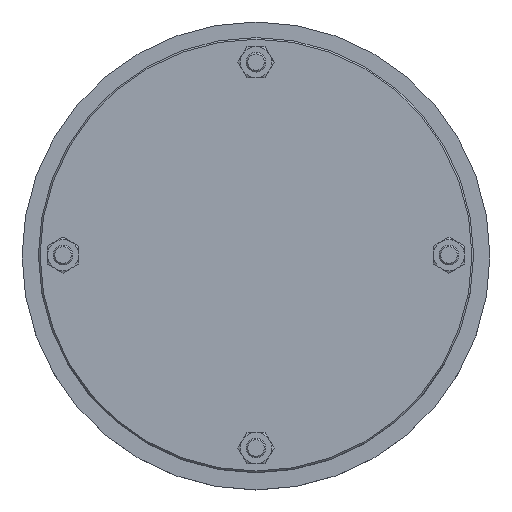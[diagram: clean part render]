
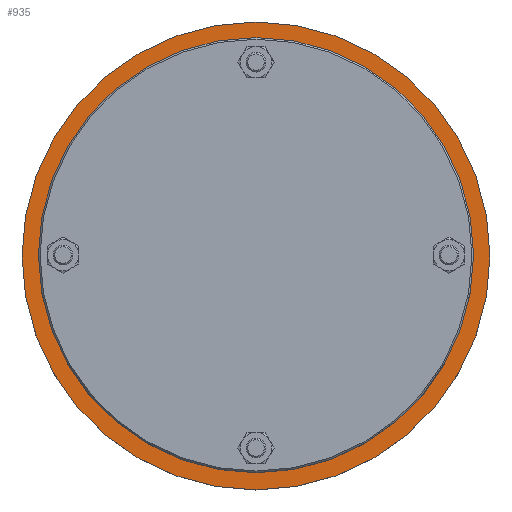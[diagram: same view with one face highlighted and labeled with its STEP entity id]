
A CAD part, top view. The second image highlights one B-rep face of the part: STEP entity #935.
In plain terms, the highlighted planar face has unit normal (0, 0, 1).
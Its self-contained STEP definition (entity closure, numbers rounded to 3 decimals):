
#935=ADVANCED_FACE('',(#3507,#3509,#3511,#3513,#3515,#3517,#3519,#3521,#3523,#3525),
#3527,.T.);
#3507=FACE_BOUND('',#3508,.T.);
#3508=EDGE_LOOP('',(#5523));
#3509=FACE_BOUND('',#3510,.T.);
#3510=EDGE_LOOP('',(#5524));
#3511=FACE_BOUND('',#3512,.T.);
#3512=EDGE_LOOP('',(#5525));
#3513=FACE_BOUND('',#3514,.T.);
#3514=EDGE_LOOP('',(#5526));
#3515=FACE_BOUND('',#3516,.T.);
#3516=EDGE_LOOP('',(#5527));
#3517=FACE_BOUND('',#3518,.T.);
#3518=EDGE_LOOP('',(#5528));
#3519=FACE_BOUND('',#3520,.T.);
#3520=EDGE_LOOP('',(#5529));
#3521=FACE_BOUND('',#3522,.T.);
#3522=EDGE_LOOP('',(#5530));
#3523=FACE_BOUND('',#3524,.T.);
#3524=EDGE_LOOP('',(#5531));
#3525=FACE_BOUND('',#3526,.T.);
#3526=EDGE_LOOP('',(#5532));
#3527=PLANE('',#3528);
#3528=AXIS2_PLACEMENT_3D('',#3529,#3530,#3531);
#3529=CARTESIAN_POINT('',(0.,0.,26.));
#3530=DIRECTION('',(0.,0.,1.));
#3531=DIRECTION('',(1.,0.,0.));
#5523=ORIENTED_EDGE('',*,*,#6561,.T.);
#5524=ORIENTED_EDGE('',*,*,#6535,.F.);
#5525=ORIENTED_EDGE('',*,*,#6562,.T.);
#5526=ORIENTED_EDGE('',*,*,#6563,.T.);
#5527=ORIENTED_EDGE('',*,*,#6564,.T.);
#5528=ORIENTED_EDGE('',*,*,#6565,.T.);
#5529=ORIENTED_EDGE('',*,*,#6566,.T.);
#5530=ORIENTED_EDGE('',*,*,#6567,.T.);
#5531=ORIENTED_EDGE('',*,*,#6568,.T.);
#5532=ORIENTED_EDGE('',*,*,#6569,.T.);
#6535=EDGE_CURVE('',#7283,#7283,#7284,.T.);
#6561=EDGE_CURVE('',#7311,#7311,#7312,.T.);
#6562=EDGE_CURVE('',#7313,#7313,#7314,.T.);
#6563=EDGE_CURVE('',#7315,#7315,#7316,.T.);
#6564=EDGE_CURVE('',#7317,#7317,#7318,.T.);
#6565=EDGE_CURVE('',#7319,#7319,#7320,.T.);
#6566=EDGE_CURVE('',#7321,#7321,#7322,.T.);
#6567=EDGE_CURVE('',#7323,#7323,#7324,.T.);
#6568=EDGE_CURVE('',#7325,#7325,#7326,.T.);
#6569=EDGE_CURVE('',#7327,#7327,#7328,.T.);
#7283=VERTEX_POINT('',#11352);
#7284=CIRCLE('',#11353,98.);
#7311=VERTEX_POINT('',#11458);
#7312=CIRCLE('',#11459,142.5);
#7313=VERTEX_POINT('',#11463);
#7314=CIRCLE('',#11464,11.);
#7315=VERTEX_POINT('',#11468);
#7316=CIRCLE('',#11469,11.);
#7317=VERTEX_POINT('',#11473);
#7318=CIRCLE('',#11474,11.);
#7319=VERTEX_POINT('',#11478);
#7320=CIRCLE('',#11479,11.);
#7321=VERTEX_POINT('',#11483);
#7322=CIRCLE('',#11484,11.);
#7323=VERTEX_POINT('',#11488);
#7324=CIRCLE('',#11489,11.);
#7325=VERTEX_POINT('',#11493);
#7326=CIRCLE('',#11494,11.);
#7327=VERTEX_POINT('',#11498);
#7328=CIRCLE('',#11499,11.);
#11352=CARTESIAN_POINT('',(98.,0.,26.));
#11353=AXIS2_PLACEMENT_3D('',#11354,#11355,#11356);
#11354=CARTESIAN_POINT('',(0.,0.,26.));
#11355=DIRECTION('',(0.,0.,1.));
#11356=DIRECTION('',(1.,0.,0.));
#11458=CARTESIAN_POINT('',(142.5,0.,26.));
#11459=AXIS2_PLACEMENT_3D('',#11460,#11461,#11462);
#11460=CARTESIAN_POINT('',(0.,0.,26.));
#11461=DIRECTION('',(0.,0.,1.));
#11462=DIRECTION('',(1.,0.,0.));
#11463=CARTESIAN_POINT('',(56.922,-110.866,26.));
#11464=AXIS2_PLACEMENT_3D('',#11465,#11466,#11467);
#11465=CARTESIAN_POINT('',(45.922,-110.866,26.));
#11466=DIRECTION('',(0.,0.,-1.));
#11467=DIRECTION('',(1.,0.,0.));
#11468=CARTESIAN_POINT('',(-38.144,-118.644,26.));
#11469=AXIS2_PLACEMENT_3D('',#11470,#11471,#11472);
#11470=CARTESIAN_POINT('',(-45.922,-110.866,26.));
#11471=DIRECTION('',(0.,0.,-1.));
#11472=DIRECTION('',(0.707,-0.707,0.));
#11473=CARTESIAN_POINT('',(-110.866,-56.922,26.));
#11474=AXIS2_PLACEMENT_3D('',#11475,#11476,#11477);
#11475=CARTESIAN_POINT('',(-110.866,-45.922,26.));
#11476=DIRECTION('',(0.,0.,-1.));
#11477=DIRECTION('',(0.,-1.,0.));
#11478=CARTESIAN_POINT('',(-118.644,38.144,26.));
#11479=AXIS2_PLACEMENT_3D('',#11480,#11481,#11482);
#11480=CARTESIAN_POINT('',(-110.866,45.922,26.));
#11481=DIRECTION('',(0.,0.,-1.));
#11482=DIRECTION('',(-0.707,-0.707,0.));
#11483=CARTESIAN_POINT('',(-56.922,110.866,26.));
#11484=AXIS2_PLACEMENT_3D('',#11485,#11486,#11487);
#11485=CARTESIAN_POINT('',(-45.922,110.866,26.));
#11486=DIRECTION('',(0.,0.,-1.));
#11487=DIRECTION('',(-1.,0.,0.));
#11488=CARTESIAN_POINT('',(38.144,118.644,26.));
#11489=AXIS2_PLACEMENT_3D('',#11490,#11491,#11492);
#11490=CARTESIAN_POINT('',(45.922,110.866,26.));
#11491=DIRECTION('',(0.,0.,-1.));
#11492=DIRECTION('',(-0.707,0.707,0.));
#11493=CARTESIAN_POINT('',(110.866,56.922,26.));
#11494=AXIS2_PLACEMENT_3D('',#11495,#11496,#11497);
#11495=CARTESIAN_POINT('',(110.866,45.922,26.));
#11496=DIRECTION('',(0.,0.,-1.));
#11497=DIRECTION('',(0.,1.,0.));
#11498=CARTESIAN_POINT('',(118.644,-38.144,26.));
#11499=AXIS2_PLACEMENT_3D('',#11500,#11501,#11502);
#11500=CARTESIAN_POINT('',(110.866,-45.922,26.));
#11501=DIRECTION('',(0.,0.,-1.));
#11502=DIRECTION('',(0.707,0.707,0.));
